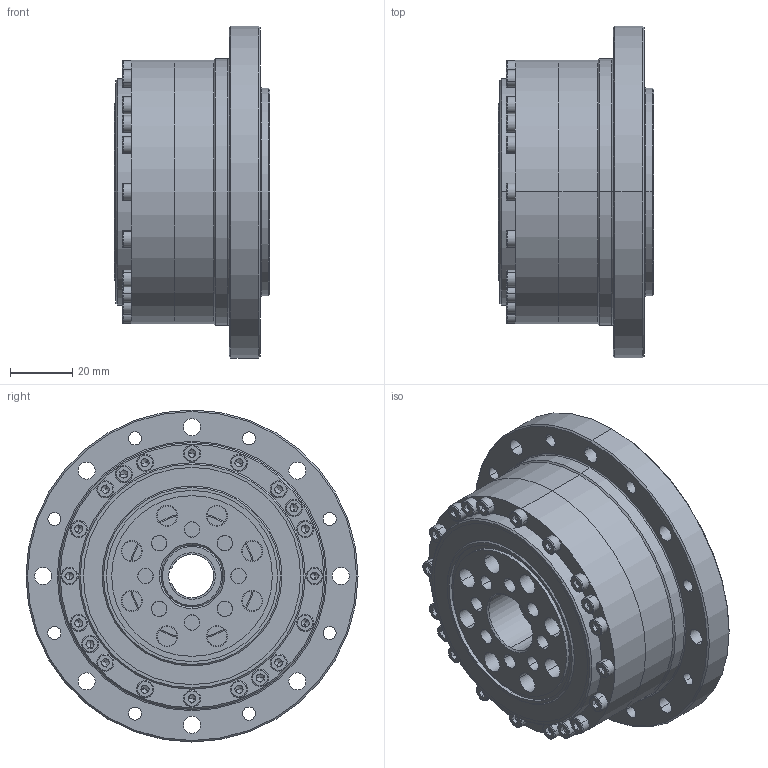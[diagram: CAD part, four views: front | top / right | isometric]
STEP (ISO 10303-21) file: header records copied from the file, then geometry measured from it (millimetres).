
FILE_DESCRIPTION (( 'STEP AP203' ), '1' );
FILE_NAME ('LCS-25-XXX-C-I.STEP', '2016-08-25T07:11:03', ( 'Windows 蚚誧' ), ( 'Users' ), 'SwSTEP 2.0', 'SolidWorks 2013', '' );
FILE_SCHEMA (( 'CONFIG_CONTROL_DESIGN' ));
Length unit declared in the file: millimetre
Products named in the file (15): DB-25-I; RZC-25内外圈+钢球; LCS-25-XXX-P01-I; LCS-25-XXX-P02-I; RZC-25悵厥殤; LCS-25-XXX-P04-I; 柔性轴承RZC-25; LCS-25-XXX-P05-I; ﾊｮﾗﾖﾇﾐｲﾛｳﾁﾍｷﾂﾝｶ､M2.5 x 6_ISO 7046-1 - M2.5 x 6 - Z --- 6C; YF-25-I; LCS-25-XXX-C-I; socket head cap screw_din_DIN 912 M6 x 16 --- 16C; socket head cap screw_din_DIN 912 M3 x 20 --- 20C; LCS-25-XXX-P03-I; socket head cap screw_din_DIN 912 M3 x 12 --- 12C
Assembly tree (42 placements, depth 3):
  LCS-25-XXX-C-I
    LCS-25-XXX-P03-I
    DB-25-I
    LCS-25-XXX-P01-I
    LCS-25-XXX-P02-I
    LCS-25-XXX-P04-I
    LCS-25-XXX-P05-I
    YF-25-I
    socket head cap screw_din_DIN 912 M6 x 16 --- 16C  x8
    socket head cap screw_din_DIN 912 M3 x 20 --- 20C  x16
    socket head cap screw_din_DIN 912 M3 x 12 --- 12C  x4
    柔性轴承RZC-25
      RZC-25内外圈+钢球
      RZC-25悵厥殤
    ﾊｮﾗﾖﾇﾐｲﾛｳﾁﾍｷﾂﾝｶ､M2.5 x 6_ISO 7046-1 - M2.5 x 6 - Z --- 6C  x4
Bounding box: 50 x 107 x 107 mm (x, y, z)
Volume: 199362.3 mm3; surface area: 124492.4 mm2
Topology: 66 solids, 67 shells, 1598 faces, 3735 edges, 2238 vertices
Faces by surface type: plane 617, cylinder 515, cone 260, torus 160, sphere 46
Entity records: 26037 total; most frequent: DIRECTION 4677, CARTESIAN_POINT 3980, ORIENTED_EDGE 3696, AXIS2_PLACEMENT_3D 1999, EDGE_CURVE 1848, VERTEX_POINT 1182, CIRCLE 1153, EDGE_LOOP 1048
